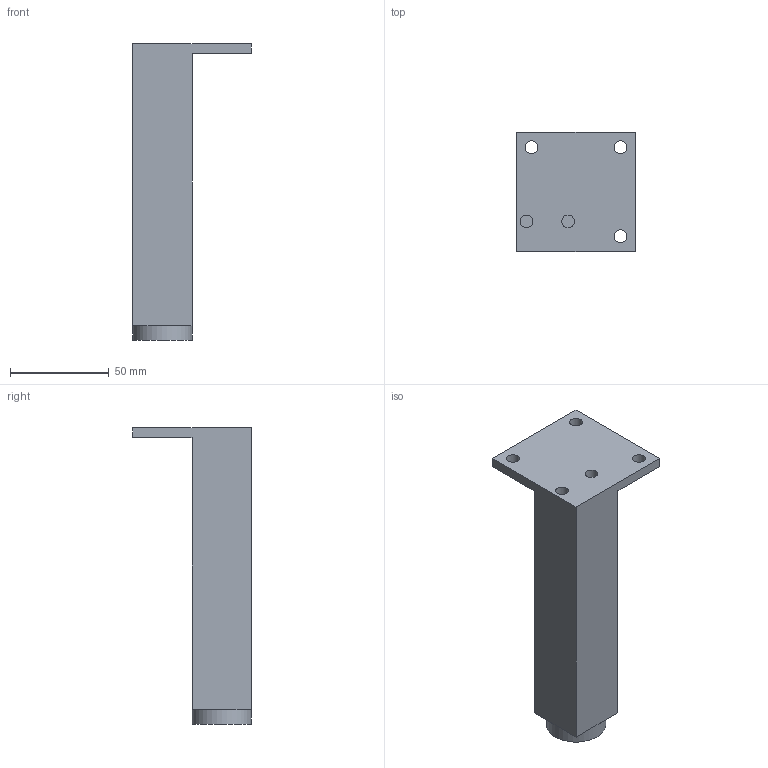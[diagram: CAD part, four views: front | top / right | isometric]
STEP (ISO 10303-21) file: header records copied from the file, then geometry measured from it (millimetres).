
FILE_DESCRIPTION( ( 'STEP AP214' ), '1' );
FILE_NAME( 'D:/Yug/2021/Desk_and_office_organisation/QC/9119448.stp', '2021-01-06T05:08:41', ( '' ), ( '' ), ' ', 'PARTsolutions', ' ' );
FILE_SCHEMA( ( 'AUTOMOTIVE_DESIGN { 1 0 10303 214 1 1 1 1 }' ) );
Length unit declared in the file: millimetre
Products named in the file (1): _9119448
Bounding box: 60 x 60 x 150 mm (x, y, z)
Volume: 146227 mm3; surface area: 25917.9 mm2
Topology: 1 solids, 1 shells, 21 faces, 46 edges, 29 vertices
Faces by surface type: plane 15, cylinder 6
Full cylindrical faces by diameter (mm): 6.48 x5, 30 x1
Entity records: 741 total; most frequent: DIRECTION 99, CARTESIAN_POINT 91, ORIENTED_EDGE 80, EDGE_CURVE 40, AXIS2_PLACEMENT_3D 37, EDGE_LOOP 35, VERTEX_POINT 29, FACE_OUTER_BOUND 27
